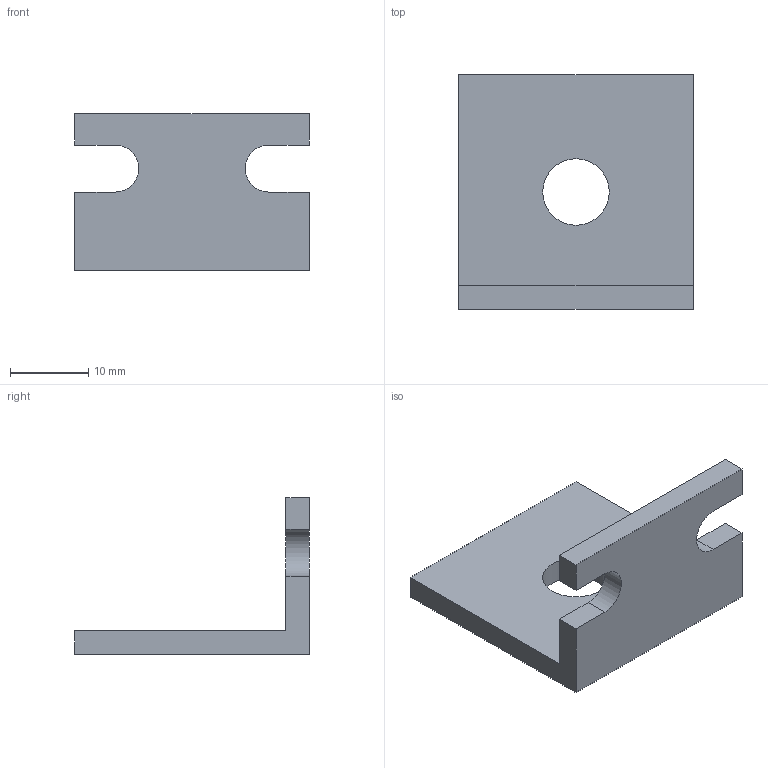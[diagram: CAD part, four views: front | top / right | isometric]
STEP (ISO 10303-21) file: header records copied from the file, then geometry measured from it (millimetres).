
FILE_DESCRIPTION(/* description */ (''),/* implementation_level */ '2;1');
FILE_NAME(/* name */ 'C:\#Vault-WorkDir\Konstruktions-Dokumente\Projekte\Zubehör allgemein\153-00559_MC 08_0.stp',/* time_stamp */ '2015-01-13T11:52:56+01:00',/* author */ ('sandra.stahl'),/* organization */ (''),/* preprocessor_version */ 'ST-DEVELOPER v15.2',/* originating_system */ 'Autodesk Inventor 2014',/* authorisation */ '');
FILE_SCHEMA (('AUTOMOTIVE_DESIGN { 1 0 10303 214 3 1 1 }'));
Length unit declared in the file: millimetre
Products named in the file (1): GH-ENG-0009176
Bounding box: 30 x 30 x 20 mm (x, y, z)
Volume: 3787.7 mm3; surface area: 3150.2 mm2
Topology: 1 solids, 1 shells, 17 faces, 45 edges, 30 vertices
Faces by surface type: plane 14, cylinder 3
Full cylindrical faces by diameter (mm): 8.5 x1
Entity records: 545 total; most frequent: CARTESIAN_POINT 92, ORIENTED_EDGE 88, DIRECTION 86, EDGE_CURVE 44, LINE 38, VECTOR 38, VERTEX_POINT 30, AXIS2_PLACEMENT_3D 24
